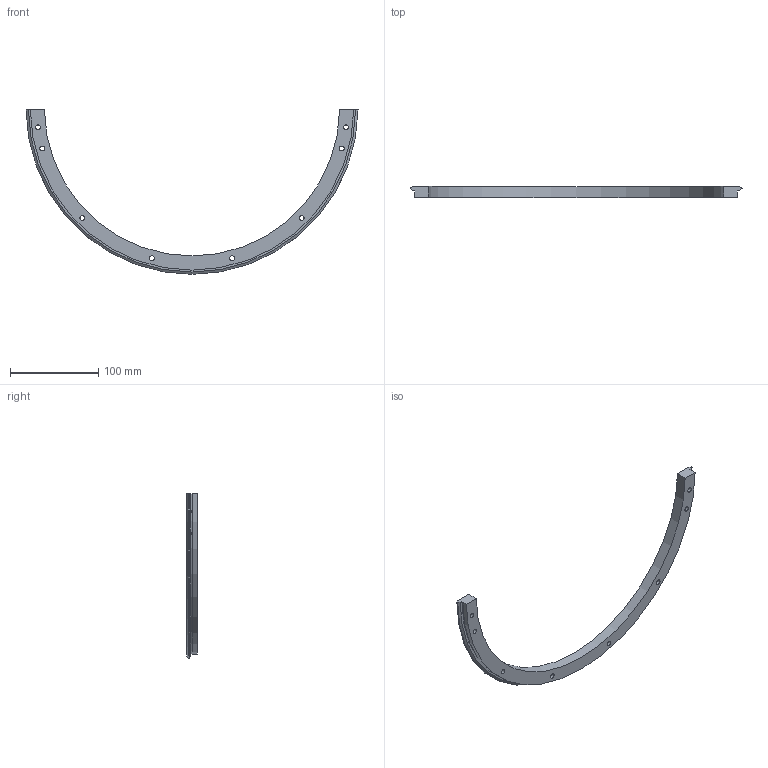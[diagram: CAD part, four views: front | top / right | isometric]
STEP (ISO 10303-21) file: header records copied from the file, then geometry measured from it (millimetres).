
FILE_DESCRIPTION( ( 'STEP AP203' ), '1' );
FILE_NAME( 'p:/temp/worker_24/temp/exporttempdir_412_880_GVQYs/format_0/TRES 376 R180 .stp', '2021-09-17T07:48:51', ( 'License CC BY-ND 4.0' ), ( 'CADENAS' ), ' ', 'PARTsolutions', ' ' );
FILE_SCHEMA( ( 'CONFIG_CONTROL_DESIGN' ) );
Length unit declared in the file: millimetre
Products named in the file (1): _TRES 376 R180  
Bounding box: 375.58 x 12.25 x 186.3 mm (x, y, z)
Volume: 111508.9 mm3; surface area: 37967.1 mm2
Topology: 1 solids, 1 shells, 36 faces, 78 edges, 52 vertices
Faces by surface type: cylinder 19, plane 14, cone 2, torus 1
Full cylindrical faces by diameter (mm): 5.5 x8, 10 x8
Entity records: 1022 total; most frequent: CARTESIAN_POINT 182, DIRECTION 172, ORIENTED_EDGE 124, AXIS2_PLACEMENT_3D 79, EDGE_LOOP 76, EDGE_CURVE 62, VERTEX_POINT 53, FACE_OUTER_BOUND 52
